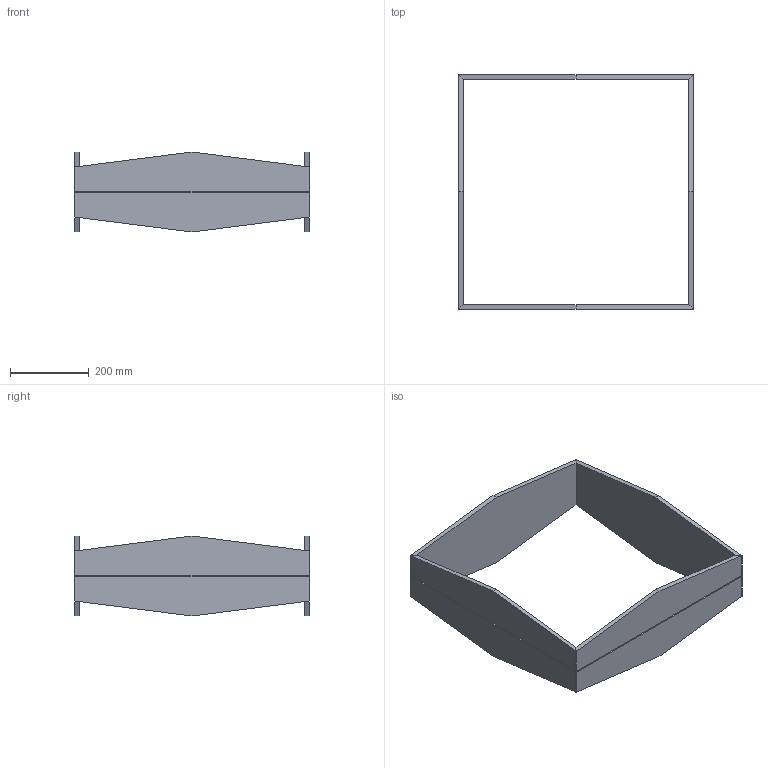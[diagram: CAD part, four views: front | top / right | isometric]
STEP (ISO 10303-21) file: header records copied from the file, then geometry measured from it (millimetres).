
FILE_DESCRIPTION(/* description */ (''),/* implementation_level */ '2;1');
FILE_NAME(/* name */ 'Profile_3',/* time_stamp */ '2026-07-07T12:51:56-05:00',/* author */ (''),/* organization */ (''),/* preprocessor_version */ 'ST-DEVELOPER v19.2',/* originating_system */ 'Rhino 8.32',/* authorisation */ '');
FILE_SCHEMA (('CONFIG_CONTROL_DESIGN'));
Length unit declared in the file: inch
Products named in the file (1): Document
Bounding box: 596.9 x 596.9 x 203.2 mm (x, y, z)
Volume: 4613631.5 mm3; surface area: 876022.4 mm2
Topology: 4 solids, 4 shells, 48 faces, 120 edges, 80 vertices
Faces by surface type: plane 48
Entity records: 1350 total; most frequent: CARTESIAN_POINT 402, ORIENTED_EDGE 240, EDGE_CURVE 120, B_SPLINE_CURVE_WITH_KNOTS 120, VERTEX_POINT 80, DIRECTION 52, AXIS2_PLACEMENT_3D 50, ADVANCED_FACE 48
